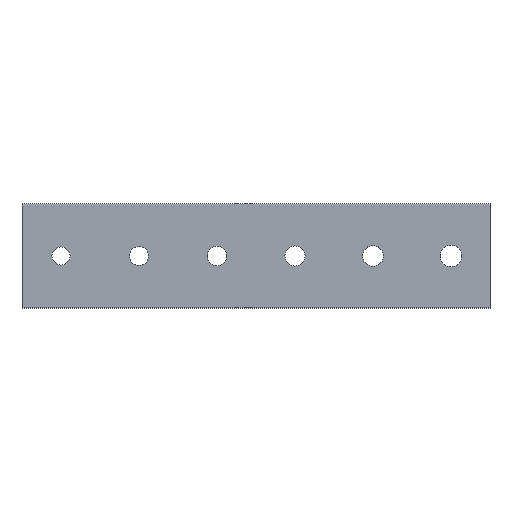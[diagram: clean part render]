
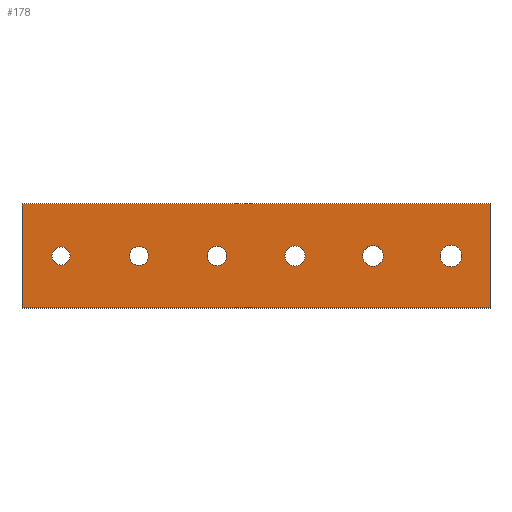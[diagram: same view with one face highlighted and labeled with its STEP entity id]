
A CAD part, top view. The second image highlights one B-rep face of the part: STEP entity #178.
In plain terms, the highlighted planar face has unit normal (0, 0, 1).
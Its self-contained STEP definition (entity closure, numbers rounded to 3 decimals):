
#32 = VERTEX_POINT('',#33);
#33 = CARTESIAN_POINT('',(0.,16.,3.));
#39 = EDGE_CURVE('',#32,#40,#42,.T.);
#40 = VERTEX_POINT('',#41);
#41 = CARTESIAN_POINT('',(0.,0.,3.));
#42 = LINE('',#43,#44);
#43 = CARTESIAN_POINT('',(0.,16.,3.));
#44 = VECTOR('',#45,1.);
#45 = DIRECTION('',(0.,-1.,0.));
#161 = VERTEX_POINT('',#162);
#162 = CARTESIAN_POINT('',(72.,0.,3.));
#168 = EDGE_CURVE('',#40,#161,#169,.T.);
#169 = LINE('',#170,#171);
#170 = CARTESIAN_POINT('',(0.,0.,3.));
#171 = VECTOR('',#172,1.);
#172 = DIRECTION('',(1.,0.,0.));
#178 = ADVANCED_FACE('',(#179,#197,#208,#219,#230,#241,#252),#263,.T.);
#179 = FACE_BOUND('',#180,.T.);
#180 = EDGE_LOOP('',(#181,#189,#190,#191));
#181 = ORIENTED_EDGE('',*,*,#182,.F.);
#182 = EDGE_CURVE('',#32,#183,#185,.T.);
#183 = VERTEX_POINT('',#184);
#184 = CARTESIAN_POINT('',(72.,16.,3.));
#185 = LINE('',#186,#187);
#186 = CARTESIAN_POINT('',(0.,16.,3.));
#187 = VECTOR('',#188,1.);
#188 = DIRECTION('',(1.,0.,0.));
#189 = ORIENTED_EDGE('',*,*,#39,.T.);
#190 = ORIENTED_EDGE('',*,*,#168,.T.);
#191 = ORIENTED_EDGE('',*,*,#192,.F.);
#192 = EDGE_CURVE('',#183,#161,#193,.T.);
#193 = LINE('',#194,#195);
#194 = CARTESIAN_POINT('',(72.,16.,3.));
#195 = VECTOR('',#196,1.);
#196 = DIRECTION('',(0.,-1.,0.));
#197 = FACE_BOUND('',#198,.T.);
#198 = EDGE_LOOP('',(#199));
#199 = ORIENTED_EDGE('',*,*,#200,.F.);
#200 = EDGE_CURVE('',#201,#201,#203,.T.);
#201 = VERTEX_POINT('',#202);
#202 = CARTESIAN_POINT('',(6.,6.6,3.));
#203 = CIRCLE('',#204,1.4);
#204 = AXIS2_PLACEMENT_3D('',#205,#206,#207);
#205 = CARTESIAN_POINT('',(6.,8.,3.));
#206 = DIRECTION('',(0.,0.,1.));
#207 = DIRECTION('',(0.,-1.,0.));
#208 = FACE_BOUND('',#209,.T.);
#209 = EDGE_LOOP('',(#210));
#210 = ORIENTED_EDGE('',*,*,#211,.F.);
#211 = EDGE_CURVE('',#212,#212,#214,.T.);
#212 = VERTEX_POINT('',#213);
#213 = CARTESIAN_POINT('',(18.,6.55,3.));
#214 = CIRCLE('',#215,1.45);
#215 = AXIS2_PLACEMENT_3D('',#216,#217,#218);
#216 = CARTESIAN_POINT('',(18.,8.,3.));
#217 = DIRECTION('',(0.,0.,1.));
#218 = DIRECTION('',(0.,-1.,0.));
#219 = FACE_BOUND('',#220,.T.);
#220 = EDGE_LOOP('',(#221));
#221 = ORIENTED_EDGE('',*,*,#222,.F.);
#222 = EDGE_CURVE('',#223,#223,#225,.T.);
#223 = VERTEX_POINT('',#224);
#224 = CARTESIAN_POINT('',(30.,6.5,3.));
#225 = CIRCLE('',#226,1.5);
#226 = AXIS2_PLACEMENT_3D('',#227,#228,#229);
#227 = CARTESIAN_POINT('',(30.,8.,3.));
#228 = DIRECTION('',(0.,0.,1.));
#229 = DIRECTION('',(0.,-1.,0.));
#230 = FACE_BOUND('',#231,.T.);
#231 = EDGE_LOOP('',(#232));
#232 = ORIENTED_EDGE('',*,*,#233,.F.);
#233 = EDGE_CURVE('',#234,#234,#236,.T.);
#234 = VERTEX_POINT('',#235);
#235 = CARTESIAN_POINT('',(42.,6.45,3.));
#236 = CIRCLE('',#237,1.55);
#237 = AXIS2_PLACEMENT_3D('',#238,#239,#240);
#238 = CARTESIAN_POINT('',(42.,8.,3.));
#239 = DIRECTION('',(0.,0.,1.));
#240 = DIRECTION('',(0.,-1.,0.));
#241 = FACE_BOUND('',#242,.T.);
#242 = EDGE_LOOP('',(#243));
#243 = ORIENTED_EDGE('',*,*,#244,.F.);
#244 = EDGE_CURVE('',#245,#245,#247,.T.);
#245 = VERTEX_POINT('',#246);
#246 = CARTESIAN_POINT('',(54.,6.4,3.));
#247 = CIRCLE('',#248,1.6);
#248 = AXIS2_PLACEMENT_3D('',#249,#250,#251);
#249 = CARTESIAN_POINT('',(54.,8.,3.));
#250 = DIRECTION('',(0.,0.,1.));
#251 = DIRECTION('',(0.,-1.,0.));
#252 = FACE_BOUND('',#253,.T.);
#253 = EDGE_LOOP('',(#254));
#254 = ORIENTED_EDGE('',*,*,#255,.F.);
#255 = EDGE_CURVE('',#256,#256,#258,.T.);
#256 = VERTEX_POINT('',#257);
#257 = CARTESIAN_POINT('',(66.,6.35,3.));
#258 = CIRCLE('',#259,1.65);
#259 = AXIS2_PLACEMENT_3D('',#260,#261,#262);
#260 = CARTESIAN_POINT('',(66.,8.,3.));
#261 = DIRECTION('',(0.,0.,1.));
#262 = DIRECTION('',(0.,-1.,0.));
#263 = PLANE('',#264);
#264 = AXIS2_PLACEMENT_3D('',#265,#266,#267);
#265 = CARTESIAN_POINT('',(0.,16.,3.));
#266 = DIRECTION('',(0.,0.,1.));
#267 = DIRECTION('',(0.,-1.,0.));
